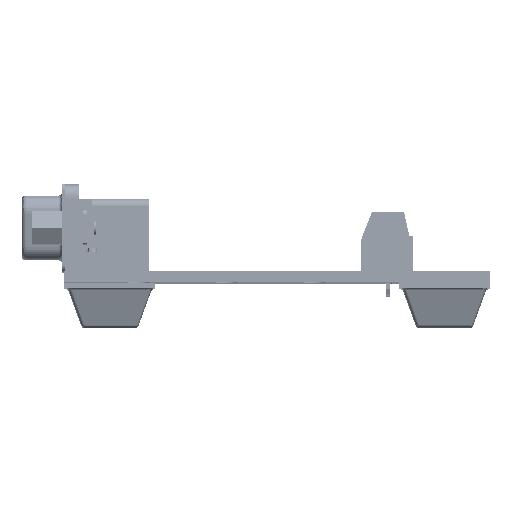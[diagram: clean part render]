
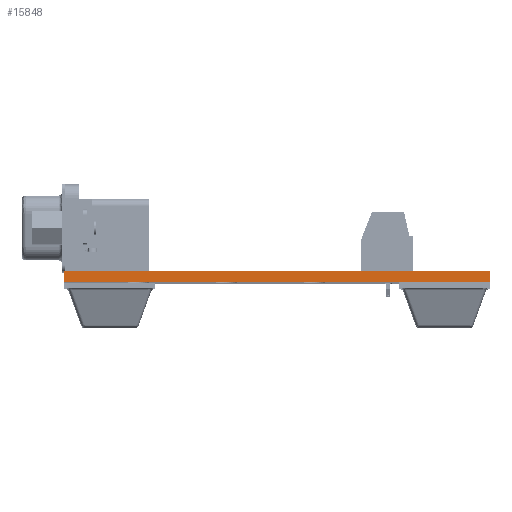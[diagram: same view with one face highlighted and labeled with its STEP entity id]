
A CAD part, top view. The second image highlights one B-rep face of the part: STEP entity #15848.
In plain terms, the highlighted planar face has unit normal (0, 0, 1).
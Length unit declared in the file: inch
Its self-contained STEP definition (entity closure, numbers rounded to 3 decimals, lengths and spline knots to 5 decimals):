
#15848 = ADVANCED_FACE ( 'NONE', ( #354148 ), #365542, .T. ) ;
#18534 = CARTESIAN_POINT ( 'NONE',  ( 0., -0.062, -0.894 ) ) ;
#73649 = AXIS2_PLACEMENT_3D ( 'NONE', #18534, #444553, #187409 ) ;
#99061 = VERTEX_POINT ( 'NONE', #279491 ) ;
#104989 = LINE ( 'NONE', #173382, #300004 ) ;
#125273 = CARTESIAN_POINT ( 'NONE',  ( 24., -0.062, -0.894 ) ) ;
#132681 = VERTEX_POINT ( 'NONE', #473323 ) ;
#138305 = CARTESIAN_POINT ( 'NONE',  ( 26.38, 0., -0.894 ) ) ;
#165597 = VERTEX_POINT ( 'NONE', #138305 ) ;
#172415 = ORIENTED_EDGE ( 'NONE', *, *, #343553, .F. ) ;
#173382 = CARTESIAN_POINT ( 'NONE',  ( 0., -0.062, -0.894 ) ) ;
#184521 = ORIENTED_EDGE ( 'NONE', *, *, #492306, .F. ) ;
#187409 = DIRECTION ( 'NONE',  ( 1., 0., 0. ) ) ;
#207352 = VECTOR ( 'NONE', #517287, 39.37008 ) ;
#208070 = EDGE_CURVE ( 'NONE', #507487, #165597, #247887, .T. ) ;
#208657 = VECTOR ( 'NONE', #337362, 39.37008 ) ;
#247887 = LINE ( 'NONE', #511768, #207352 ) ;
#279491 = CARTESIAN_POINT ( 'NONE',  ( 24., 0., -0.894 ) ) ;
#282294 = VECTOR ( 'NONE', #348877, 39.37008 ) ;
#300004 = VECTOR ( 'NONE', #511567, 39.37008 ) ;
#337362 = DIRECTION ( 'NONE',  ( 0., 1., 0. ) ) ;
#343553 = EDGE_CURVE ( 'NONE', #99061, #165597, #376251, .T. ) ;
#348877 = DIRECTION ( 'NONE',  ( 1., 0., 0. ) ) ;
#354148 = FACE_OUTER_BOUND ( 'NONE', #449131, .T. ) ;
#365542 = PLANE ( 'NONE',  #73649 ) ;
#376251 = LINE ( 'NONE', #433384, #282294 ) ;
#420113 = EDGE_CURVE ( 'NONE', #132681, #507487, #104989, .T. ) ;
#433384 = CARTESIAN_POINT ( 'NONE',  ( 0., 0., -0.894 ) ) ;
#444553 = DIRECTION ( 'NONE',  ( 0., 0., 1. ) ) ;
#445857 = ORIENTED_EDGE ( 'NONE', *, *, #420113, .T. ) ;
#449131 = EDGE_LOOP ( 'NONE', ( #172415, #184521, #445857, #532822 ) ) ;
#473323 = CARTESIAN_POINT ( 'NONE',  ( 24., -0.062, -0.894 ) ) ;
#492306 = EDGE_CURVE ( 'NONE', #132681, #99061, #504461, .T. ) ;
#504461 = LINE ( 'NONE', #125273, #208657 ) ;
#507487 = VERTEX_POINT ( 'NONE', #517277 ) ;
#511567 = DIRECTION ( 'NONE',  ( 1., 0., 0. ) ) ;
#511768 = CARTESIAN_POINT ( 'NONE',  ( 26.38, -0.062, -0.894 ) ) ;
#517277 = CARTESIAN_POINT ( 'NONE',  ( 26.38, -0.062, -0.894 ) ) ;
#517287 = DIRECTION ( 'NONE',  ( 0., 1., 0. ) ) ;
#532822 = ORIENTED_EDGE ( 'NONE', *, *, #208070, .T. ) ;
